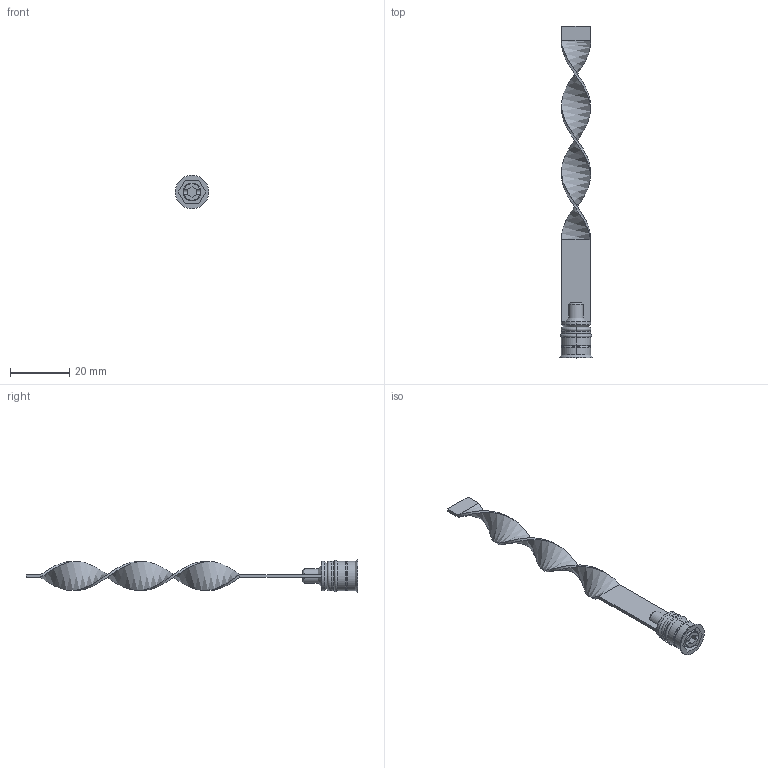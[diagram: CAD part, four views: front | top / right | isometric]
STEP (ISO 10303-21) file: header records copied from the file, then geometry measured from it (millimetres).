
FILE_DESCRIPTION (( 'STEP AP203' ), '1' );
FILE_NAME ('RLS-10Fx100.STEP', '2015-12-04T14:35:16', ( 'Balzi' ), ( '' ), 'SwSTEP 2.0', 'SolidWorks 2015', '' );
FILE_SCHEMA (( 'CONFIG_CONTROL_DESIGN' ));
Length unit declared in the file: millimetre
Products named in the file (1): RLS-10Fx100
Bounding box: 11.3 x 112.5 x 11.3 mm (x, y, z)
Volume: 1905.9 mm3; surface area: 3160 mm2
Topology: 1 solids, 1 shells, 80 faces, 187 edges, 113 vertices
Faces by surface type: plane 34, cylinder 17, cone 17, torus 8, bspline 4
Entity records: 3273 total; most frequent: CARTESIAN_POINT 1383, DIRECTION 386, ORIENTED_EDGE 374, EDGE_CURVE 187, AXIS2_PLACEMENT_3D 144, VERTEX_POINT 113, VECTOR 98, LINE 98
